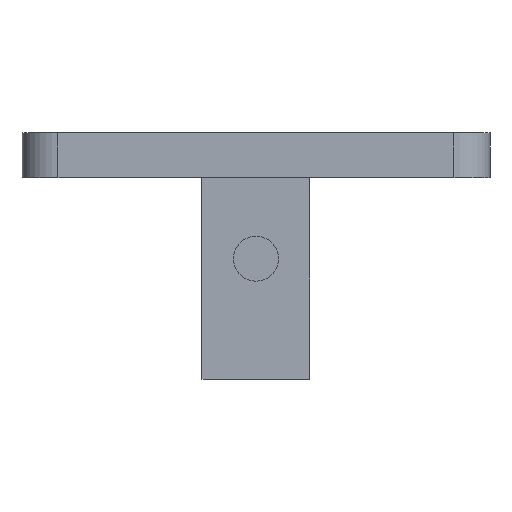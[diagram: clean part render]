
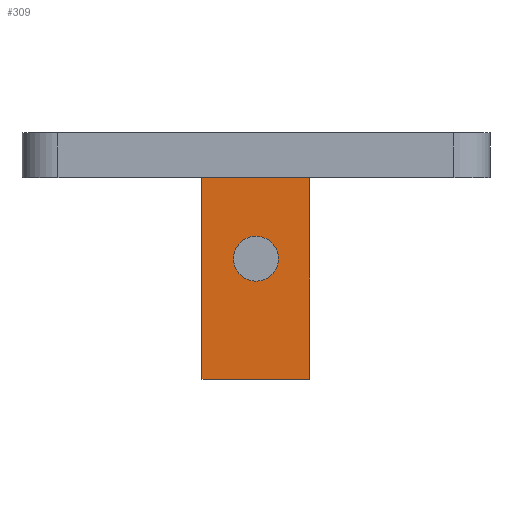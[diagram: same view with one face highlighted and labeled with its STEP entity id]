
A CAD part, front view. The second image highlights one B-rep face of the part: STEP entity #309.
In plain terms, the highlighted planar face has unit normal (0, -1, 0).
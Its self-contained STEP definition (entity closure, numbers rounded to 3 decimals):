
#146 = EDGE_CURVE ( 'NONE', #317, #340, #935, .T. ) ;
#198 = VERTEX_POINT ( 'NONE', #1048 ) ;
#200 = EDGE_CURVE ( 'NONE', #201, #198, #1047, .T. ) ;
#201 = VERTEX_POINT ( 'NONE', #1053 ) ;
#247 = ORIENTED_EDGE ( 'NONE', *, *, #314, .F. ) ;
#291 = ORIENTED_EDGE ( 'NONE', *, *, #146, .T. ) ;
#292 = EDGE_CURVE ( 'NONE', #316, #340, #1940, .T. ) ;
#294 = ORIENTED_EDGE ( 'NONE', *, *, #292, .F. ) ;
#295 = EDGE_CURVE ( 'NONE', #304, #316, #2070, .T. ) ;
#302 = EDGE_LOOP ( 'NONE', ( #311, #310 ) ) ;
#304 = VERTEX_POINT ( 'NONE', #2068 ) ;
#305 = ORIENTED_EDGE ( 'NONE', *, *, #295, .F. ) ;
#309 = ADVANCED_FACE ( 'NONE', ( #1904, #1900 ), #1915, .F. ) ;
#310 = ORIENTED_EDGE ( 'NONE', *, *, #200, .F. ) ;
#311 = ORIENTED_EDGE ( 'NONE', *, *, #313, .F. ) ;
#313 = EDGE_CURVE ( 'NONE', #198, #201, #1892, .T. ) ;
#314 = EDGE_CURVE ( 'NONE', #317, #304, #1893, .T. ) ;
#315 = EDGE_LOOP ( 'NONE', ( #247, #291, #294, #305 ) ) ;
#316 = VERTEX_POINT ( 'NONE', #1977 ) ;
#317 = VERTEX_POINT ( 'NONE', #1897 ) ;
#340 = VERTEX_POINT ( 'NONE', #2020 ) ;
#934 = CARTESIAN_POINT ( 'NONE',  ( -3., -15.2, -3.7 ) ) ;
#935 = LINE ( 'NONE', #934, #977 ) ;
#976 = DIRECTION ( 'NONE',  ( 0., 0., -1. ) ) ;
#977 = VECTOR ( 'NONE', #976, 1000. ) ;
#1038 = DIRECTION ( 'NONE',  ( 0., 0., 1. ) ) ;
#1039 = DIRECTION ( 'NONE',  ( 0., -1., 0. ) ) ;
#1040 = CARTESIAN_POINT ( 'NONE',  ( 0., -15.2, 3. ) ) ;
#1047 = CIRCLE ( 'NONE', #1059, 1.25 ) ;
#1048 = CARTESIAN_POINT ( 'NONE',  ( 0., -15.2, 4.25 ) ) ;
#1053 = CARTESIAN_POINT ( 'NONE',  ( 0., -15.2, 1.75 ) ) ;
#1059 = AXIS2_PLACEMENT_3D ( 'NONE', #1040, #1039, #1038 ) ;
#1889 = DIRECTION ( 'NONE',  ( 0., 0., 1. ) ) ;
#1890 = DIRECTION ( 'NONE',  ( 0., -1., 0. ) ) ;
#1891 = AXIS2_PLACEMENT_3D ( 'NONE', #1903, #1890, #1889 ) ;
#1892 = CIRCLE ( 'NONE', #1891, 1.25 ) ;
#1893 = LINE ( 'NONE', #1976, #1975 ) ;
#1895 = DIRECTION ( 'NONE',  ( 0., 0., 1. ) ) ;
#1897 = CARTESIAN_POINT ( 'NONE',  ( -3., -15.2, 7.5 ) ) ;
#1899 = AXIS2_PLACEMENT_3D ( 'NONE', #1902, #1908, #1895 ) ;
#1900 = FACE_OUTER_BOUND ( 'NONE', #315, .T. ) ;
#1902 = CARTESIAN_POINT ( 'NONE',  ( 3., -15.2, -3.7 ) ) ;
#1903 = CARTESIAN_POINT ( 'NONE',  ( 0., -15.2, 3. ) ) ;
#1904 = FACE_BOUND ( 'NONE', #302, .T. ) ;
#1908 = DIRECTION ( 'NONE',  ( 0., 1., 0. ) ) ;
#1915 = PLANE ( 'NONE',  #1899 ) ;
#1940 = LINE ( 'NONE', #1945, #2069 ) ;
#1945 = CARTESIAN_POINT ( 'NONE',  ( 3., -15.2, -3.7 ) ) ;
#1974 = DIRECTION ( 'NONE',  ( 1., 0., 0. ) ) ;
#1975 = VECTOR ( 'NONE', #1974, 1000. ) ;
#1976 = CARTESIAN_POINT ( 'NONE',  ( 3., -15.2, 7.5 ) ) ;
#1977 = CARTESIAN_POINT ( 'NONE',  ( 3., -15.2, -3.7 ) ) ;
#2020 = CARTESIAN_POINT ( 'NONE',  ( -3., -15.2, -3.7 ) ) ;
#2048 = DIRECTION ( 'NONE',  ( -1., 0., 0. ) ) ;
#2065 = DIRECTION ( 'NONE',  ( 0., 0., -1. ) ) ;
#2066 = VECTOR ( 'NONE', #2065, 1000. ) ;
#2067 = CARTESIAN_POINT ( 'NONE',  ( 3., -15.2, -3.7 ) ) ;
#2068 = CARTESIAN_POINT ( 'NONE',  ( 3., -15.2, 7.5 ) ) ;
#2069 = VECTOR ( 'NONE', #2048, 1000. ) ;
#2070 = LINE ( 'NONE', #2067, #2066 ) ;
